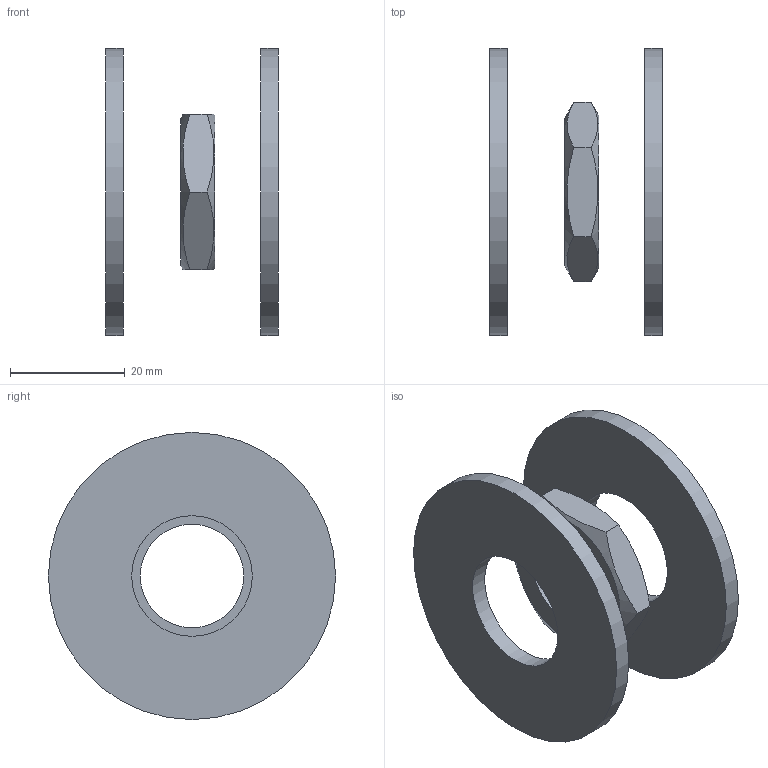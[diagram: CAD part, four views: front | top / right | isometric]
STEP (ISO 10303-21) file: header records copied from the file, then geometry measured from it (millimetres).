
FILE_DESCRIPTION(('HOOPS Exchange Step'),'2;1');
FILE_NAME('/private/var/mobile/Containers/Data/Application/1606885C-1F6A-4C16-ADE5-2EBBFD4A2795/tmp/export/temp_export','2024-08-12T09:33:26+02:00',('mobile'),('Shapr3D Limited'),'HOOPS Exchange 2024.2','Shapr3D','Authorized');
FILE_SCHEMA( ('AP242_MANAGED_MODEL_BASED_3D_ENGINEERING_MIM_LF {1 0 10303 442 1 1 4 }') );
Length unit declared in the file: millimetre
Products named in the file (2): Mutter; root
Assembly tree (1 placements, depth 2):
  root
    Mutter
Bounding box: 30 x 50 x 50 mm (x, y, z)
Volume: 11874.9 mm3; surface area: 9362 mm2
Topology: 3 solids, 3 shells, 19 faces, 47 edges, 34 vertices
Faces by surface type: plane 12, cylinder 5, cone 2
Full cylindrical faces by diameter (mm): 18 x1, 21 x2, 50 x2
Entity records: 913 total; most frequent: CARTESIAN_POINT 374, DIRECTION 103, ORIENTED_EDGE 94, EDGE_CURVE 47, AXIS2_PLACEMENT_3D 45, VERTEX_POINT 34, EDGE_LOOP 25, FACE_BOUND 25
